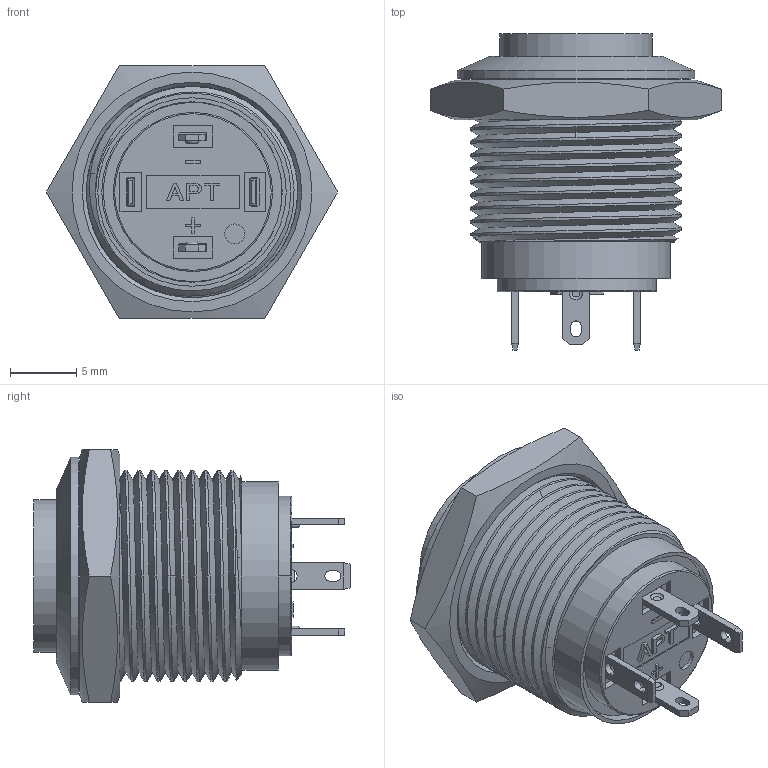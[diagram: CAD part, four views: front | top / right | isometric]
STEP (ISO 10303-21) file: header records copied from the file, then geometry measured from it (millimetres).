
FILE_DESCRIPTION(/* description */ (''),/* implementation_level */ '2;1');
FILE_NAME(/* name */ 'FM16E-SHP-10D2.stp',/* time_stamp */ '2020-07-28T13:30:58+08:00',/* author */ (''),/* organization */ (''),/* preprocessor_version */ 'ST-DEVELOPER v16.7',/* originating_system */ 'SIEMENS PLM Software NX 12.0',/* authorisation */ '');
FILE_SCHEMA (('AUTOMOTIVE_DESIGN { 1 0 10303 214 3 1 1 1 }'));
Length unit declared in the file: millimetre
Products named in the file (1): Admi43A8CC905p3o
Bounding box: 21.94 x 23.82 x 19 mm (x, y, z)
Volume: 2489 mm3; surface area: 4824.3 mm2
Topology: 1 solids, 1 shells, 433 faces, 1193 edges, 780 vertices
Faces by surface type: plane 320, cylinder 70, cone 17, torus 11, bspline 11, extrusion 4
Full cylindrical faces by diameter (mm): 1 x2, 1.1 x2, 1.5 x1, 3 x1, 4 x1, 4.1 x1, 5 x1, 5.5 x1, 5.6 x1, 9 x1, 9.3 x1, 10.9 x1, 11.5 x1, 11.8 x1, 12.7 x1, 13.6 x1, 14.2 x1, 14.5 x1, 17.9 x1
Entity records: 17031 total; most frequent: CARTESIAN_POINT 5256, ORIENTED_EDGE 2248, DIRECTION 2068, EDGE_CURVE 1124, VECTOR 800, LINE 796, VERTEX_POINT 753, AXIS2_PLACEMENT_3D 634
